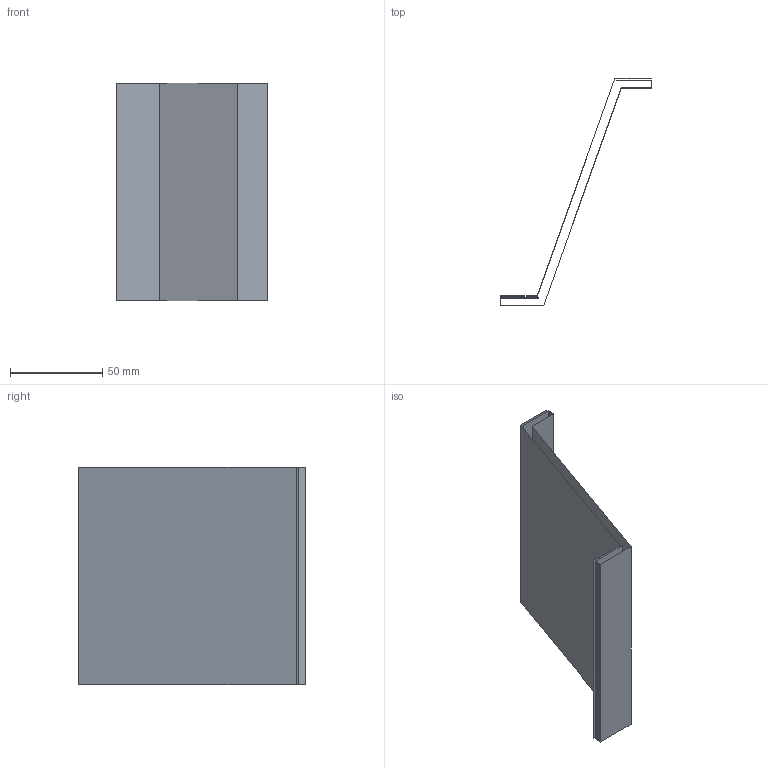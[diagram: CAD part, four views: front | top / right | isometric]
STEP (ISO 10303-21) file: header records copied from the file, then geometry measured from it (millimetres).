
FILE_DESCRIPTION(('CATIA V5 STEP Exchange'),'2;1');
FILE_NAME('C:\_Andres\UNIVERSIDAD\IQS\ASIGNATURAS\DAO\EXF\EXF-16172c\2inicio\Marinetto_Rohr_Ej06_v18.stp','2017-03-05T21:01:25+00:00',('none'),('none'),'CATIA Version 5-6 Release 2014 SP1 HF18','CATIA V5 STEP AP203','none');
FILE_SCHEMA(('CONFIG_CONTROL_DESIGN'));
Length unit declared in the file: millimetre
Products named in the file (1): Marinetto_Rohr_Ej06_v18
Bounding box: 82 x 123 x 118 mm (x, y, z)
Surface area: 44663.4 mm2 (no closed solid volume)
Topology: 0 solids, 2 shells, 10 faces, 42 edges, 36 vertices
Faces by surface type: plane 10
Entity records: 461 total; most frequent: CARTESIAN_POINT 100, DIRECTION 59, ORIENTED_EDGE 40, VECTOR 39, LINE 39, EDGE_CURVE 32, VERTEX_POINT 24, AXIS2_PLACEMENT_3D 11
